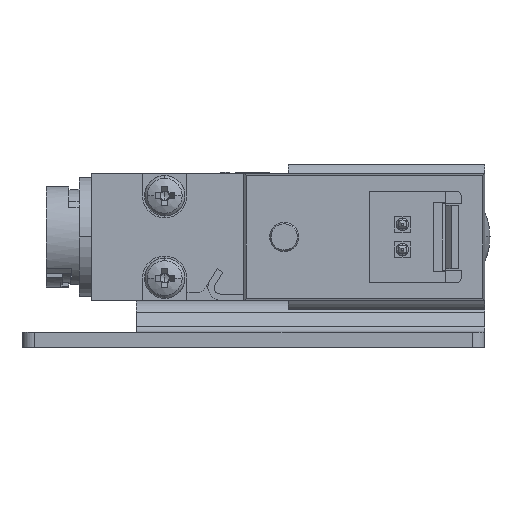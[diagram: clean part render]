
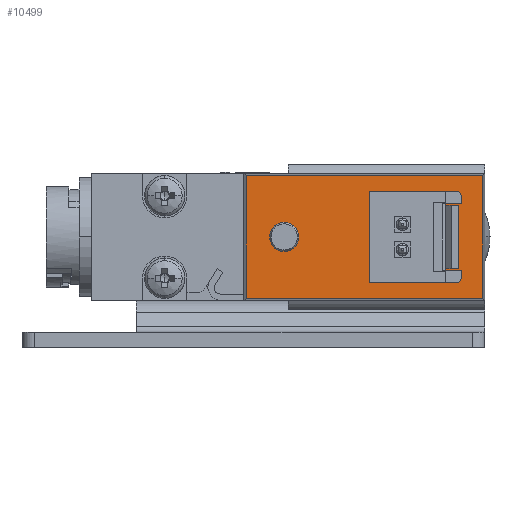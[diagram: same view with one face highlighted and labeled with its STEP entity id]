
A CAD part, left-side view. The second image highlights one B-rep face of the part: STEP entity #10499.
In plain terms, the highlighted planar face has unit normal (-1, 0, 0) as drawn and (0, 0, 1) by its records, which use the part's own axes.
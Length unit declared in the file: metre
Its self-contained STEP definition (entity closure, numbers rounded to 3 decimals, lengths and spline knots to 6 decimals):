
#35 = CARTESIAN_POINT ( 'NONE',  ( -0.0015, 0.0075, 0.005 ) ) ;
#56 = CARTESIAN_POINT ( 'NONE',  ( -0.004825, 0.0105, 0.005 ) ) ;
#349 = CARTESIAN_POINT ( 'NONE',  ( 0., 0.001175, 0.005 ) ) ;
#432 = VECTOR ( 'NONE', #1406, 1. ) ;
#625 = ORIENTED_EDGE ( 'NONE', *, *, #13688, .F. ) ;
#902 = ORIENTED_EDGE ( 'NONE', *, *, #3319, .F. ) ;
#919 = CARTESIAN_POINT ( 'NONE',  ( -0.0005, 0.0075, 0.005 ) ) ;
#1091 = AXIS2_PLACEMENT_3D ( 'NONE', #14451, #6221, #15851 ) ;
#1203 = CIRCLE ( 'NONE', #10946, 0.00115 ) ;
#1406 = DIRECTION ( 'NONE',  ( 0., 1., 0. ) ) ;
#1526 = DIRECTION ( 'NONE',  ( -1., 0., 0. ) ) ;
#1690 = DIRECTION ( 'NONE',  ( -1., 0., 0. ) ) ;
#2080 = CARTESIAN_POINT ( 'NONE',  ( 0.0015, 0.0075, 0.005 ) ) ;
#2171 = AXIS2_PLACEMENT_3D ( 'NONE', #12403, #9730, #1526 ) ;
#2336 = ORIENTED_EDGE ( 'NONE', *, *, #4073, .T. ) ;
#2642 = VERTEX_POINT ( 'NONE', #6098 ) ;
#2673 = DIRECTION ( 'NONE',  ( 0., -1., 0. ) ) ;
#3085 = VERTEX_POINT ( 'NONE', #15327 ) ;
#3178 = FACE_BOUND ( 'NONE', #15641, .T. ) ;
#3204 = VERTEX_POINT ( 'NONE', #17256 ) ;
#3239 = VERTEX_POINT ( 'NONE', #17427 ) ;
#3311 = CARTESIAN_POINT ( 'NONE',  ( 0.0005, 0.0085, 0.005 ) ) ;
#3319 = EDGE_CURVE ( 'NONE', #16603, #9076, #7834, .T. ) ;
#3409 = VERTEX_POINT ( 'NONE', #14438 ) ;
#3610 = FACE_BOUND ( 'NONE', #6797, .T. ) ;
#3657 = CARTESIAN_POINT ( 'NONE',  ( 0.0015, 0.0075, 0.005 ) ) ;
#3823 = CARTESIAN_POINT ( 'NONE',  ( 0.0015, 0.0085, 0.005 ) ) ;
#3887 = CARTESIAN_POINT ( 'NONE',  ( 0.00115, 0.016825, 0.005 ) ) ;
#4073 = EDGE_CURVE ( 'NONE', #9020, #11134, #1203, .T. ) ;
#4230 = CARTESIAN_POINT ( 'NONE',  ( 0.0005, 0.0075, 0.005 ) ) ;
#4267 = VERTEX_POINT ( 'NONE', #16388 ) ;
#4522 = VECTOR ( 'NONE', #1690, 1. ) ;
#4557 = EDGE_CURVE ( 'NONE', #11134, #9020, #5637, .T. ) ;
#5112 = ORIENTED_EDGE ( 'NONE', *, *, #17613, .F. ) ;
#5308 = CARTESIAN_POINT ( 'NONE',  ( 0.0005, 0.0075, 0.005 ) ) ;
#5613 = ORIENTED_EDGE ( 'NONE', *, *, #9130, .F. ) ;
#5637 = CIRCLE ( 'NONE', #1091, 0.00115 ) ;
#6098 = CARTESIAN_POINT ( 'NONE',  ( -0.004825, 0.001175, 0.005 ) ) ;
#6221 = DIRECTION ( 'NONE',  ( 0., 0., -1. ) ) ;
#6299 = CARTESIAN_POINT ( 'NONE',  ( -0.0015, 0.0075, 0.005 ) ) ;
#6447 = EDGE_CURVE ( 'NONE', #3204, #2642, #15477, .T. ) ;
#6566 = EDGE_LOOP ( 'NONE', ( #14384, #5613 ) ) ;
#6797 = EDGE_LOOP ( 'NONE', ( #16071, #2336 ) ) ;
#7282 =( BOUNDED_CURVE ( )  B_SPLINE_CURVE ( 3, ( #6299, #14535, #9096, #919 ),
 .UNSPECIFIED., .F., .F. ) 
 B_SPLINE_CURVE_WITH_KNOTS ( ( 4, 4 ),
 ( 0., 0.001563 ),
 .UNSPECIFIED. ) 
 CURVE ( )  GEOMETRIC_REPRESENTATION_ITEM ( )  RATIONAL_B_SPLINE_CURVE ( ( 0.957, 0.319, 0.319, 0.957 ) ) 
 REPRESENTATION_ITEM ( '' )  );
#7352 = EDGE_CURVE ( 'NONE', #3409, #4267, #7282, .T. ) ;
#7484 = CARTESIAN_POINT ( 'NONE',  ( 0.0005, 0.0065, 0.005 ) ) ;
#7650 = LINE ( 'NONE', #56, #432 ) ;
#7834 =( BOUNDED_CURVE ( )  B_SPLINE_CURVE ( 3, ( #3657, #3823, #3311, #4230 ),
 .UNSPECIFIED., .F., .F. ) 
 B_SPLINE_CURVE_WITH_KNOTS ( ( 4, 4 ),
 ( 0., 0.001563 ),
 .UNSPECIFIED. ) 
 CURVE ( )  GEOMETRIC_REPRESENTATION_ITEM ( )  RATIONAL_B_SPLINE_CURVE ( ( 0.957, 0.319, 0.319, 0.957 ) ) 
 REPRESENTATION_ITEM ( '' )  );
#8184 = CARTESIAN_POINT ( 'NONE',  ( -0.0015, 0.0085, 0.005 ) ) ;
#8222 = CARTESIAN_POINT ( 'NONE',  ( -0.00115, 0.016825, 0.005 ) ) ;
#8319 = PLANE ( 'NONE',  #2171 ) ;
#8904 = CARTESIAN_POINT ( 'NONE',  ( 0.0005, 0.0075, 0.005 ) ) ;
#9020 = VERTEX_POINT ( 'NONE', #3887 ) ;
#9076 = VERTEX_POINT ( 'NONE', #5308 ) ;
#9096 = CARTESIAN_POINT ( 'NONE',  ( -0.0005, 0.0065, 0.005 ) ) ;
#9130 = EDGE_CURVE ( 'NONE', #4267, #3409, #12937, .T. ) ;
#9730 = DIRECTION ( 'NONE',  ( 0., 0., -1. ) ) ;
#9864 = VECTOR ( 'NONE', #14902, 1. ) ;
#9869 = ORIENTED_EDGE ( 'NONE', *, *, #9884, .F. ) ;
#9884 = EDGE_CURVE ( 'NONE', #3085, #3204, #11783, .T. ) ;
#10298 = CARTESIAN_POINT ( 'NONE',  ( 0.0015, 0.0065, 0.005 ) ) ;
#10437 = EDGE_CURVE ( 'NONE', #2642, #3239, #7650, .T. ) ;
#10499 = ADVANCED_FACE ( 'NONE', ( #3610, #3178, #14081, #13662 ), #8319, .F. ) ;
#10910 = ORIENTED_EDGE ( 'NONE', *, *, #6447, .F. ) ;
#10946 = AXIS2_PLACEMENT_3D ( 'NONE', #12948, #13002, #13063 ) ;
#11134 = VERTEX_POINT ( 'NONE', #8222 ) ;
#11783 = LINE ( 'NONE', #12251, #15420 ) ;
#12139 = CARTESIAN_POINT ( 'NONE',  ( 0., 0.019825, 0.005 ) ) ;
#12251 = CARTESIAN_POINT ( 'NONE',  ( 0.004825, 0.0105, 0.005 ) ) ;
#12269 = CARTESIAN_POINT ( 'NONE',  ( -0.0005, 0.0085, 0.005 ) ) ;
#12403 = CARTESIAN_POINT ( 'NONE',  ( 0.004825, 0.001175, 0.005 ) ) ;
#12937 =( BOUNDED_CURVE ( )  B_SPLINE_CURVE ( 3, ( #13634, #12269, #8184, #35 ),
 .UNSPECIFIED., .F., .T. ) 
 B_SPLINE_CURVE_WITH_KNOTS ( ( 4, 4 ),
 ( 0., 0.001563 ),
 .UNSPECIFIED. ) 
 CURVE ( )  GEOMETRIC_REPRESENTATION_ITEM ( )  RATIONAL_B_SPLINE_CURVE ( ( 0.957, 0.319, 0.319, 0.957 ) ) 
 REPRESENTATION_ITEM ( '' )  );
#12948 = CARTESIAN_POINT ( 'NONE',  ( 0., 0.016825, 0.005 ) ) ;
#13002 = DIRECTION ( 'NONE',  ( 0., 0., -1. ) ) ;
#13063 = DIRECTION ( 'NONE',  ( -1., 0., 0. ) ) ;
#13634 = CARTESIAN_POINT ( 'NONE',  ( -0.0005, 0.0075, 0.005 ) ) ;
#13662 = FACE_OUTER_BOUND ( 'NONE', #13675, .T. ) ;
#13675 = EDGE_LOOP ( 'NONE', ( #5112, #16533, #10910, #9869 ) ) ;
#13688 = EDGE_CURVE ( 'NONE', #9076, #16603, #14904, .T. ) ;
#13759 = CARTESIAN_POINT ( 'NONE',  ( 0.0015, 0.0075, 0.005 ) ) ;
#14081 = FACE_BOUND ( 'NONE', #6566, .T. ) ;
#14384 = ORIENTED_EDGE ( 'NONE', *, *, #7352, .F. ) ;
#14438 = CARTESIAN_POINT ( 'NONE',  ( -0.0015, 0.0075, 0.005 ) ) ;
#14451 = CARTESIAN_POINT ( 'NONE',  ( 0., 0.016825, 0.005 ) ) ;
#14535 = CARTESIAN_POINT ( 'NONE',  ( -0.0015, 0.0065, 0.005 ) ) ;
#14902 = DIRECTION ( 'NONE',  ( 1., 0., 0. ) ) ;
#14904 =( BOUNDED_CURVE ( )  B_SPLINE_CURVE ( 3, ( #8904, #7484, #10298, #2080 ),
 .UNSPECIFIED., .F., .T. ) 
 B_SPLINE_CURVE_WITH_KNOTS ( ( 4, 4 ),
 ( 0., 0.001563 ),
 .UNSPECIFIED. ) 
 CURVE ( )  GEOMETRIC_REPRESENTATION_ITEM ( )  RATIONAL_B_SPLINE_CURVE ( ( 0.957, 0.319, 0.319, 0.957 ) ) 
 REPRESENTATION_ITEM ( '' )  );
#15327 = CARTESIAN_POINT ( 'NONE',  ( 0.004825, 0.019825, 0.005 ) ) ;
#15420 = VECTOR ( 'NONE', #2673, 1. ) ;
#15477 = LINE ( 'NONE', #349, #4522 ) ;
#15641 = EDGE_LOOP ( 'NONE', ( #902, #625 ) ) ;
#15851 = DIRECTION ( 'NONE',  ( -1., 0., 0. ) ) ;
#16071 = ORIENTED_EDGE ( 'NONE', *, *, #4557, .T. ) ;
#16388 = CARTESIAN_POINT ( 'NONE',  ( -0.0005, 0.0075, 0.005 ) ) ;
#16533 = ORIENTED_EDGE ( 'NONE', *, *, #10437, .F. ) ;
#16603 = VERTEX_POINT ( 'NONE', #13759 ) ;
#17202 = LINE ( 'NONE', #12139, #9864 ) ;
#17256 = CARTESIAN_POINT ( 'NONE',  ( 0.004825, 0.001175, 0.005 ) ) ;
#17427 = CARTESIAN_POINT ( 'NONE',  ( -0.004825, 0.019825, 0.005 ) ) ;
#17613 = EDGE_CURVE ( 'NONE', #3239, #3085, #17202, .T. ) ;
